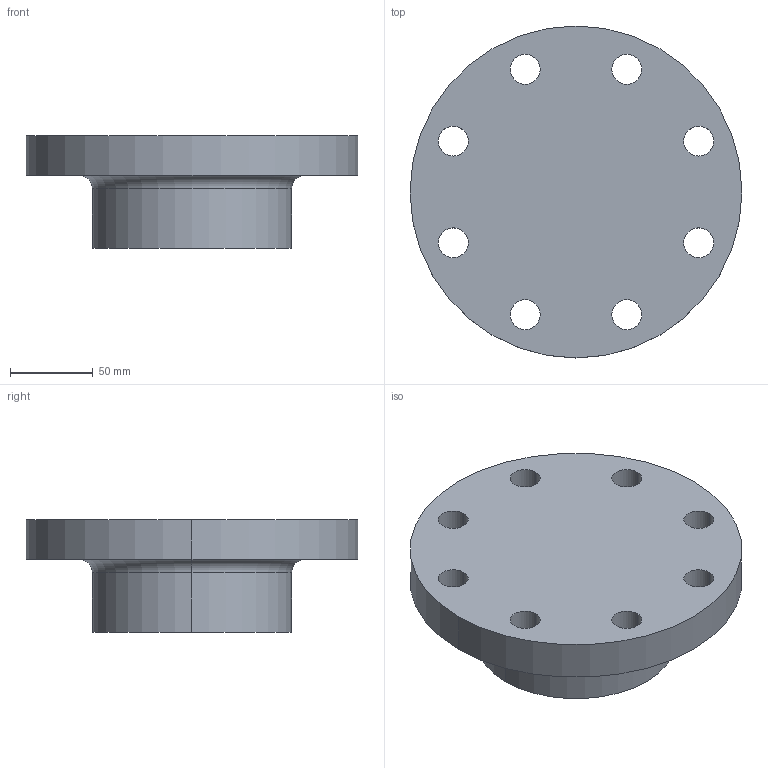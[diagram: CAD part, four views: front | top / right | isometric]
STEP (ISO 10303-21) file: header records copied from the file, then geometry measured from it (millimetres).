
FILE_DESCRIPTION (( 'STEP AP214' ), '1' );
FILE_NAME ('PN40 DN80 Type 21(i) - Type A Face.STEP', '2019-01-01T19:36:29', ( '' ), ( '' ), 'SwSTEP 2.0', 'SolidWorks 2019', '' );
FILE_SCHEMA (( 'AUTOMOTIVE_DESIGN' ));
Length unit declared in the file: millimetre
Products named in the file (1): PN40 DN80 Type 21(i) - Type A Face
Bounding box: 200 x 200 x 68 mm (x, y, z)
Volume: 1208084.5 mm3; surface area: 100019 mm2
Topology: 1 solids, 1 shells, 25 faces, 64 edges, 42 vertices
Faces by surface type: cylinder 20, plane 3, torus 2
Entity records: 852 total; most frequent: DIRECTION 160, CARTESIAN_POINT 132, ORIENTED_EDGE 128, AXIS2_PLACEMENT_3D 70, EDGE_CURVE 64, CIRCLE 44, VERTEX_POINT 42, EDGE_LOOP 42
